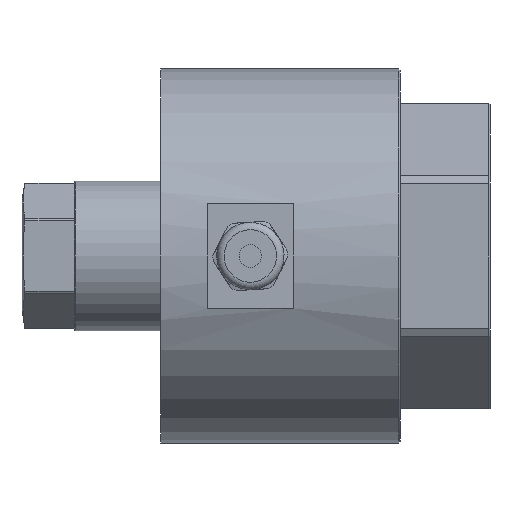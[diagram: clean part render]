
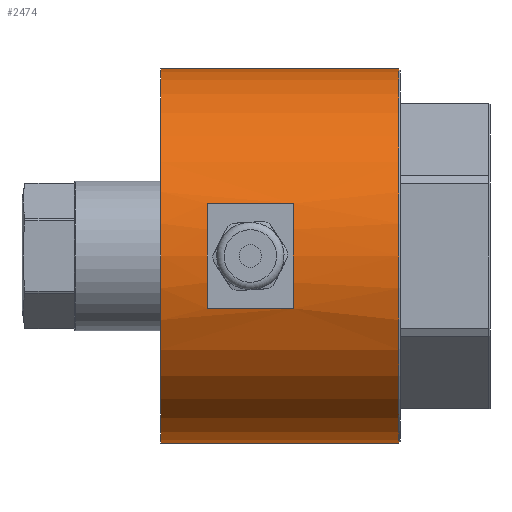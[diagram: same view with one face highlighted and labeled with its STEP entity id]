
A CAD part, left-side view. The second image highlights one B-rep face of the part: STEP entity #2474.
In plain terms, the highlighted cylindrical face has radius 25 mm (diameter 50 mm), a full revolution.
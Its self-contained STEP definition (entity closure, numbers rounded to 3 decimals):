
#136=LINE('',#3979,#313);
#137=LINE('',#3980,#314);
#313=VECTOR('',#3141,10.);
#314=VECTOR('',#3142,10.);
#418=CYLINDRICAL_SURFACE('',#2685,25.);
#559=FACE_BOUND('',#830,.T.);
#560=FACE_BOUND('',#831,.T.);
#651=FACE_OUTER_BOUND('',#829,.T.);
#829=EDGE_LOOP('',(#1866));
#830=EDGE_LOOP('',(#1867,#1868,#1869,#1870));
#831=EDGE_LOOP('',(#1871));
#955=CIRCLE('',#2621,25.);
#968=CIRCLE('',#2675,25.);
#969=CIRCLE('',#2677,25.);
#976=CIRCLE('',#2686,25.);
#1077=VERTEX_POINT('',#3717);
#1132=VERTEX_POINT('',#3969);
#1133=VERTEX_POINT('',#3970);
#1134=VERTEX_POINT('',#3974);
#1135=VERTEX_POINT('',#3975);
#1148=VERTEX_POINT('',#4006);
#1301=EDGE_CURVE('',#1077,#1077,#955,.T.);
#1392=EDGE_CURVE('',#1132,#1133,#968,.T.);
#1394=EDGE_CURVE('',#1134,#1135,#969,.T.);
#1396=EDGE_CURVE('',#1135,#1132,#136,.T.);
#1397=EDGE_CURVE('',#1133,#1134,#137,.T.);
#1410=EDGE_CURVE('',#1148,#1148,#976,.T.);
#1866=ORIENTED_EDGE('',*,*,#1301,.F.);
#1867=ORIENTED_EDGE('',*,*,#1394,.T.);
#1868=ORIENTED_EDGE('',*,*,#1396,.T.);
#1869=ORIENTED_EDGE('',*,*,#1392,.T.);
#1870=ORIENTED_EDGE('',*,*,#1397,.T.);
#1871=ORIENTED_EDGE('',*,*,#1410,.F.);
#2474=ADVANCED_FACE('',(#651,#559,#560),#418,.T.);
#2621=AXIS2_PLACEMENT_3D('',#3718,#2952,#2953);
#2675=AXIS2_PLACEMENT_3D('',#3971,#3131,#3132);
#2677=AXIS2_PLACEMENT_3D('',#3976,#3136,#3137);
#2685=AXIS2_PLACEMENT_3D('',#4005,#3161,#3162);
#2686=AXIS2_PLACEMENT_3D('',#4007,#3163,#3164);
#2952=DIRECTION('center_axis',(0.,-1.,0.));
#2953=DIRECTION('ref_axis',(0.,0.,-1.));
#3131=DIRECTION('center_axis',(0.,-1.,0.));
#3132=DIRECTION('ref_axis',(0.,0.,1.));
#3136=DIRECTION('center_axis',(0.,1.,0.));
#3137=DIRECTION('ref_axis',(0.,0.,1.));
#3141=DIRECTION('',(0.,-1.,0.));
#3142=DIRECTION('',(0.,1.,0.));
#3161=DIRECTION('center_axis',(0.,1.,0.));
#3162=DIRECTION('ref_axis',(0.,0.,1.));
#3163=DIRECTION('center_axis',(0.,1.,0.));
#3164=DIRECTION('ref_axis',(1.,0.,0.));
#3717=CARTESIAN_POINT('',(0.,-11.8,25.));
#3718=CARTESIAN_POINT('Origin',(0.,-11.8,0.));
#3969=CARTESIAN_POINT('',(-24.,2.25,7.));
#3970=CARTESIAN_POINT('',(-24.,2.25,-7.));
#3971=CARTESIAN_POINT('Origin',(0.,2.25,0.));
#3974=CARTESIAN_POINT('',(-24.,13.75,-7.));
#3975=CARTESIAN_POINT('',(-24.,13.75,7.));
#3976=CARTESIAN_POINT('Origin',(0.,13.75,0.));
#3979=CARTESIAN_POINT('',(-24.,10.,7.));
#3980=CARTESIAN_POINT('',(-24.,10.,-7.));
#4005=CARTESIAN_POINT('Origin',(0.,10.,0.));
#4006=CARTESIAN_POINT('',(0.,20.,25.));
#4007=CARTESIAN_POINT('Origin',(0.,20.,0.));
